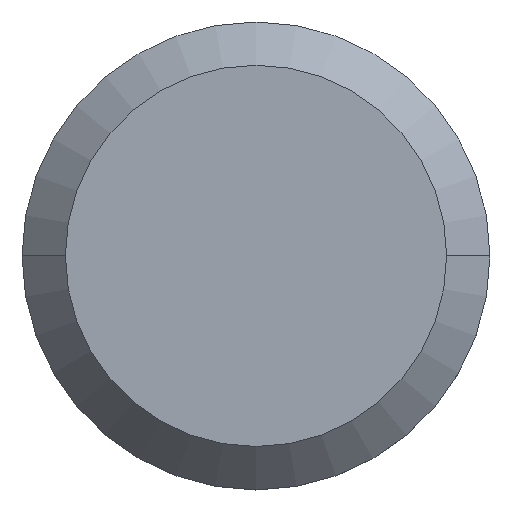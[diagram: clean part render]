
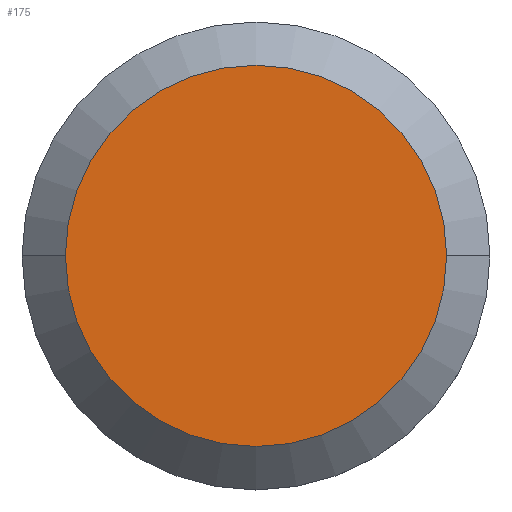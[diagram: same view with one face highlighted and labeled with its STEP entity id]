
A CAD part, top view. The second image highlights one B-rep face of the part: STEP entity #175.
In plain terms, the highlighted planar face has unit normal (0, 0, 1).
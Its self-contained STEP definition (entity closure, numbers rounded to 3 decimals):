
#38=CARTESIAN_POINT('',(15.168,2.512,0.3));
#39=DIRECTION('',(0.,0.,-1.));
#40=DIRECTION('',(-1.,0.,0.));
#41=AXIS2_PLACEMENT_3D('',#38,#39,#40);
#61=CARTESIAN_POINT('',(15.168,2.512,0.3));
#62=DIRECTION('',(0.,0.,-1.));
#63=DIRECTION('',(1.,0.,0.));
#64=AXIS2_PLACEMENT_3D('',#61,#62,#63);
#70=CARTESIAN_POINT('',(14.728,2.512,0.3));
#71=VERTEX_POINT('',#70);
#78=CARTESIAN_POINT('',(15.608,2.512,0.3));
#79=VERTEX_POINT('',#78);
#165=CARTESIAN_POINT('',(15.168,2.512,0.3));
#166=DIRECTION('',(0.,0.,1.));
#167=DIRECTION('',(1.,0.,0.));
#168=AXIS2_PLACEMENT_3D('',#165,#166,#167);
#169=PLANE('',#168);
#171=ORIENTED_EDGE('',*,*,#170,.T.);
#172=ORIENTED_EDGE('',*,*,#155,.T.);
#173=EDGE_LOOP('',(#171,#172));
#174=FACE_OUTER_BOUND('',#173,.F.);
#175=ADVANCED_FACE('',(#174),#169,.T.);
#42=CIRCLE('',#41,0.44);
#65=CIRCLE('',#64,0.44);
#155=EDGE_CURVE('',#71,#79,#42,.T.);
#170=EDGE_CURVE('',#79,#71,#65,.T.);
